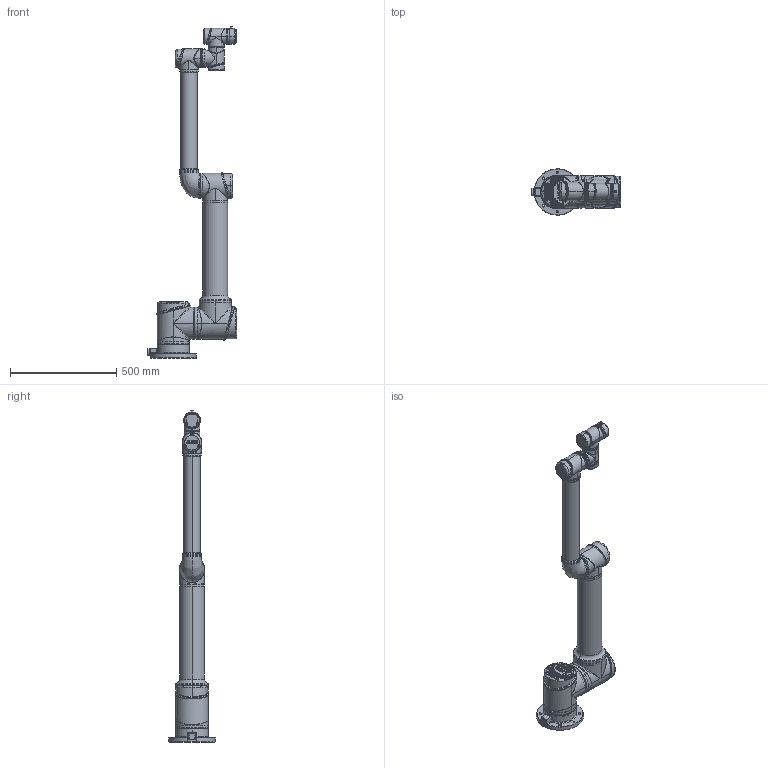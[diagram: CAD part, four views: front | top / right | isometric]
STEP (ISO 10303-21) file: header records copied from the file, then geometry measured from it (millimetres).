
FILE_DESCRIPTION (( 'STEP AP214' ), '1' );
FILE_NAME ('i10V1.0唳掛講莉耀倰.STEP', '2018-08-23T09:25:05', ( '' ), ( '' ), 'SwSTEP 2.0', 'SolidWorks 2014', '' );
FILE_SCHEMA (( 'AUTOMOTIVE_DESIGN' ));
Length unit declared in the file: millimetre
Products named in the file (10): 14-17蛌諉啣; i7ID7; i7456; i10ID456; ID3-4; i10id25-01; 1350; i10id-01; 陔唳ID0; i10V1.0唳掛講莉耀倰
Assembly tree (11 placements, depth 2):
  i10V1.0唳掛講莉耀倰
    陔唳ID0
    i10id-01  x2
    1350
    i10id25-01
    ID3-4
    i10ID456
    i7456  x2
    i7ID7
    14-17蛌諉啣
Bounding box: 420.33 x 218 x 1562.4 mm (x, y, z)
Volume: 9923180.4 mm3; surface area: 1179676.9 mm2
Topology: 14 solids, 482 shells, 3626 faces, 13458 edges, 10370 vertices
Faces by surface type: plane 2041, cylinder 893, bspline 563, cone 103, torus 20, sphere 6
Entity records: 211634 total; most frequent: CARTESIAN_POINT 106681, ORIENTED_EDGE 18378, DIRECTION 16800, EDGE_CURVE 12224, VERTEX_POINT 9600, VECTOR 7260, LINE 7260, AXIS2_PLACEMENT_3D 4770
